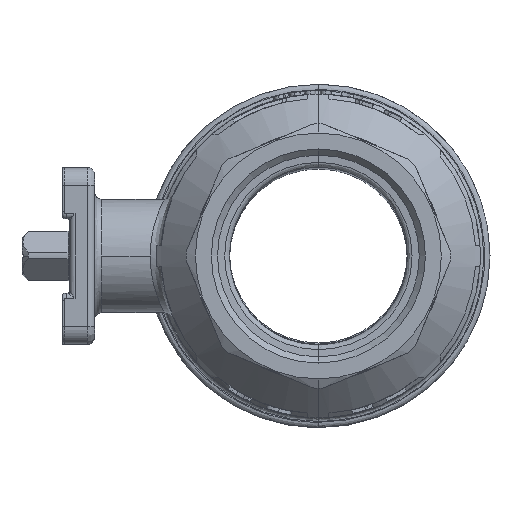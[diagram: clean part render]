
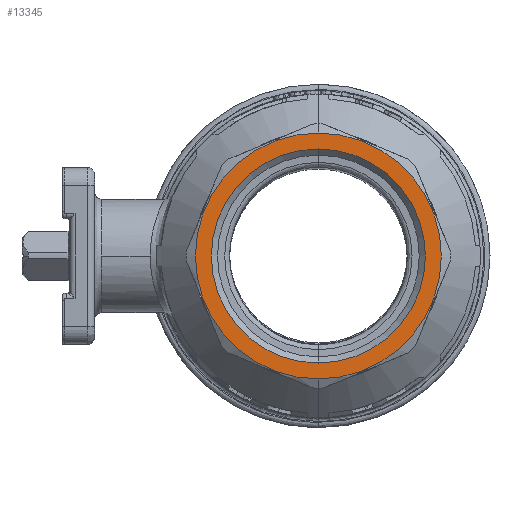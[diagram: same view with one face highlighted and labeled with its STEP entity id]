
A CAD part, left-side view. The second image highlights one B-rep face of the part: STEP entity #13345.
In plain terms, the highlighted planar face has unit normal (-1, 0, 0).
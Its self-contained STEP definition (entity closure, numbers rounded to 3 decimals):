
#13345 = ADVANCED_FACE ( 'NONE', ( #61087, #61086 ), #61085, .F. ) ;
#13346 = EDGE_LOOP ( 'NONE', ( #13347, #13402 ) ) ;
#13347 = ORIENTED_EDGE ( 'NONE', *, *, #13401, .F. ) ;
#13378 = EDGE_CURVE ( 'NONE', #13929, #13908, #61121, .T. ) ;
#13401 = EDGE_CURVE ( 'NONE', #13554, #13661, #61161, .T. ) ;
#13402 = ORIENTED_EDGE ( 'NONE', *, *, #13552, .F. ) ;
#13403 = EDGE_LOOP ( 'NONE', ( #13404, #13405 ) ) ;
#13404 = ORIENTED_EDGE ( 'NONE', *, *, #14048, .F. ) ;
#13405 = ORIENTED_EDGE ( 'NONE', *, *, #13378, .F. ) ;
#13552 = EDGE_CURVE ( 'NONE', #13661, #13554, #61532, .T. ) ;
#13554 = VERTEX_POINT ( 'NONE', #61528 ) ;
#13661 = VERTEX_POINT ( 'NONE', #61962 ) ;
#13908 = VERTEX_POINT ( 'NONE', #62753 ) ;
#13929 = VERTEX_POINT ( 'NONE', #62818 ) ;
#14048 = EDGE_CURVE ( 'NONE', #13908, #13929, #44149, .T. ) ;
#44142 = DIRECTION ( 'NONE',  ( 0., 0., -1. ) ) ;
#44144 = DIRECTION ( 'NONE',  ( 1., 0., 0. ) ) ;
#44146 = CARTESIAN_POINT ( 'NONE',  ( -67.5, 0., 0. ) ) ;
#44148 = AXIS2_PLACEMENT_3D ( 'NONE', #44146, #44144, #44142 ) ;
#44149 = CIRCLE ( 'NONE', #44148, 34.75 ) ;
#61080 = DIRECTION ( 'NONE',  ( 0., 0., -1. ) ) ;
#61081 = DIRECTION ( 'NONE',  ( 1., 0., 0. ) ) ;
#61082 = AXIS2_PLACEMENT_3D ( 'NONE', #61084, #61081, #61080 ) ;
#61084 = CARTESIAN_POINT ( 'NONE',  ( -67.5, -35.167, 35.167 ) ) ;
#61085 = PLANE ( 'NONE',  #61082 ) ;
#61086 = FACE_OUTER_BOUND ( 'NONE', #13403, .T. ) ;
#61087 = FACE_BOUND ( 'NONE', #13346, .T. ) ;
#61117 = DIRECTION ( 'NONE',  ( 0., 0., -1. ) ) ;
#61118 = DIRECTION ( 'NONE',  ( 1., 0., 0. ) ) ;
#61119 = CARTESIAN_POINT ( 'NONE',  ( -67.5, 0., 0. ) ) ;
#61120 = AXIS2_PLACEMENT_3D ( 'NONE', #61119, #61118, #61117 ) ;
#61121 = CIRCLE ( 'NONE', #61120, 34.75 ) ;
#61154 = DIRECTION ( 'NONE',  ( 0., 0., 1. ) ) ;
#61155 = DIRECTION ( 'NONE',  ( -1., 0., 0. ) ) ;
#61156 = CARTESIAN_POINT ( 'NONE',  ( -67.5, 0., 0. ) ) ;
#61157 = AXIS2_PLACEMENT_3D ( 'NONE', #61156, #61155, #61154 ) ;
#61161 = CIRCLE ( 'NONE', #61157, 30.25 ) ;
#61472 = CARTESIAN_POINT ( 'NONE',  ( -67.5, 0., 0. ) ) ;
#61528 = CARTESIAN_POINT ( 'NONE',  ( -67.5, 0., 30.25 ) ) ;
#61529 = DIRECTION ( 'NONE',  ( 0., 0., 1. ) ) ;
#61530 = DIRECTION ( 'NONE',  ( -1., 0., 0. ) ) ;
#61531 = AXIS2_PLACEMENT_3D ( 'NONE', #61472, #61530, #61529 ) ;
#61532 = CIRCLE ( 'NONE', #61531, 30.25 ) ;
#61962 = CARTESIAN_POINT ( 'NONE',  ( -67.5, 0., -30.25 ) ) ;
#62753 = CARTESIAN_POINT ( 'NONE',  ( -67.5, 0., -34.75 ) ) ;
#62818 = CARTESIAN_POINT ( 'NONE',  ( -67.5, 0., 34.75 ) ) ;
